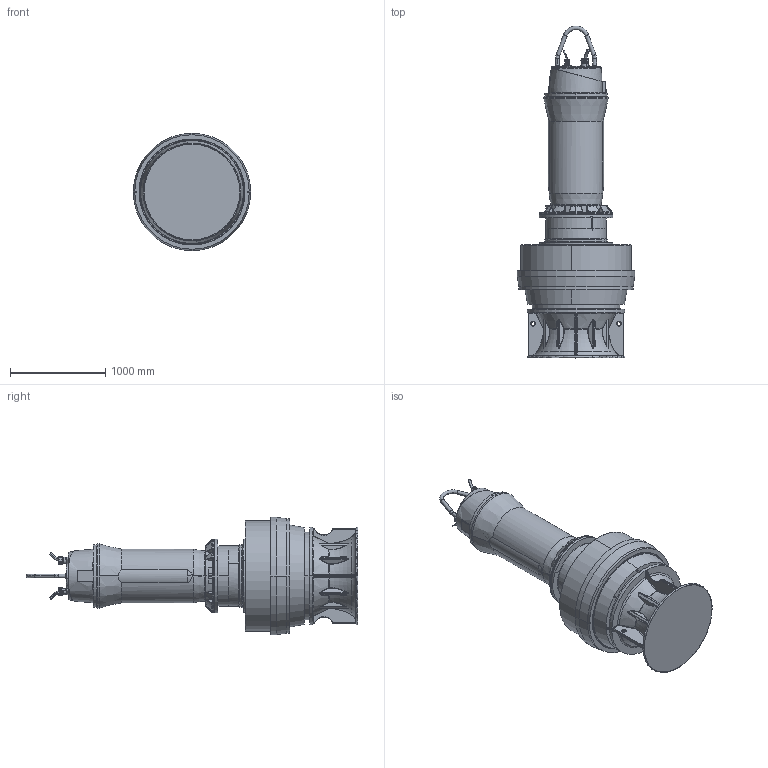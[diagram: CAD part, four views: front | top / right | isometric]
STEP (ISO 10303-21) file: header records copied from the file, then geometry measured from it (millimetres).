
FILE_DESCRIPTION (( 'STEP AP214' ), '1' );
FILE_NAME ('PE7_AFLX1203G3_STD_A.STEP', '2017-05-11T07:25:04', ( '' ), ( '' ), 'SwSTEP 2.0', 'SolidWorks 2017', '' );
FILE_SCHEMA (( 'AUTOMOTIVE_DESIGN' ));
Length unit declared in the file: millimetre
Products named in the file (1): PE7_AFLX1203G3_STD_A
Bounding box: 1230 x 3480 x 1230 mm (x, y, z)
Volume: 1450600187.7 mm3; surface area: 13241709 mm2
Topology: 3 solids, 28 shells, 2983 faces, 7162 edges, 4105 vertices
Faces by surface type: bspline 894, plane 688, cylinder 582, torus 383, cone 317, sphere 119
Entity records: 165115 total; most frequent: CARTESIAN_POINT 70608, ORIENTED_EDGE 13900, DIRECTION 11549, EDGE_CURVE 6950, AXIS2_PLACEMENT_3D 4775, VERTEX_POINT 4104, EDGE_LOOP 3126, UNCERTAINTY_MEASURE_WITH_UNIT 2988
